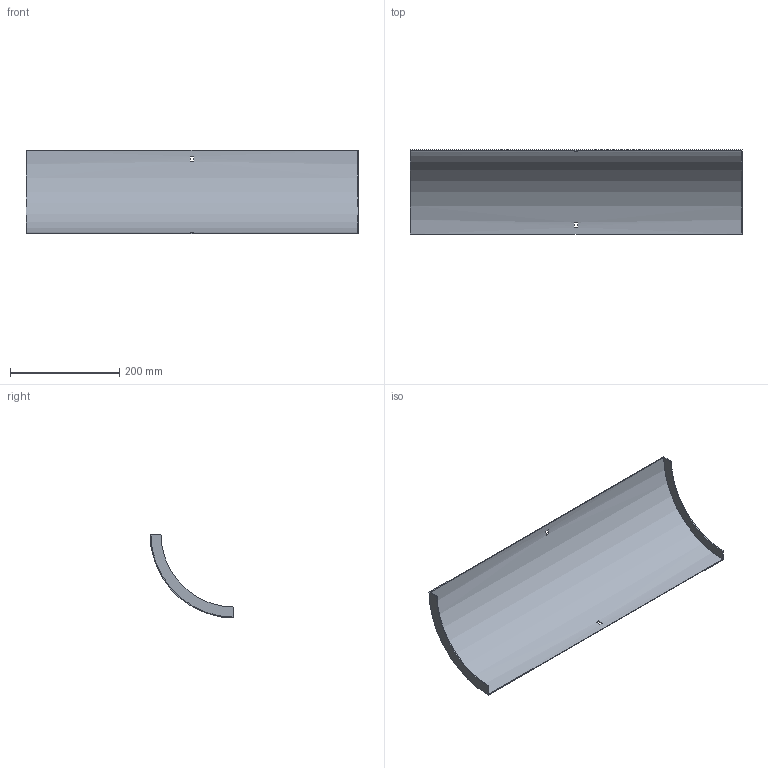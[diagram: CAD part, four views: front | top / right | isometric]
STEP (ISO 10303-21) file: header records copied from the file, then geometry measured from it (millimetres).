
FILE_DESCRIPTION (( 'STEP AP214' ), '1' );
FILE_NAME ('33N1B600.step', '2025-02-21T09:18:17', ( '' ), ( '' ), 'SwSTEP 2.0', 'SolidWorks 2023', '' );
FILE_SCHEMA (( 'AUTOMOTIVE_DESIGN' ));
Length unit declared in the file: millimetre
Products named in the file (1): 33N1B600
Bounding box: 607 x 153.5 x 153.5 mm (x, y, z)
Volume: 230732.9 mm3; surface area: 310302 mm2
Topology: 1 solids, 1 shells, 18 faces, 48 edges, 32 vertices
Faces by surface type: plane 14, cylinder 4
Entity records: 599 total; most frequent: DIRECTION 102, CARTESIAN_POINT 99, ORIENTED_EDGE 96, EDGE_CURVE 48, AXIS2_PLACEMENT_3D 35, VERTEX_POINT 32, LINE 32, VECTOR 32
